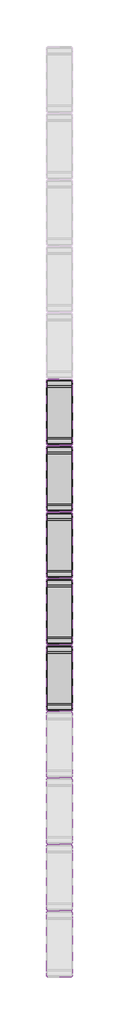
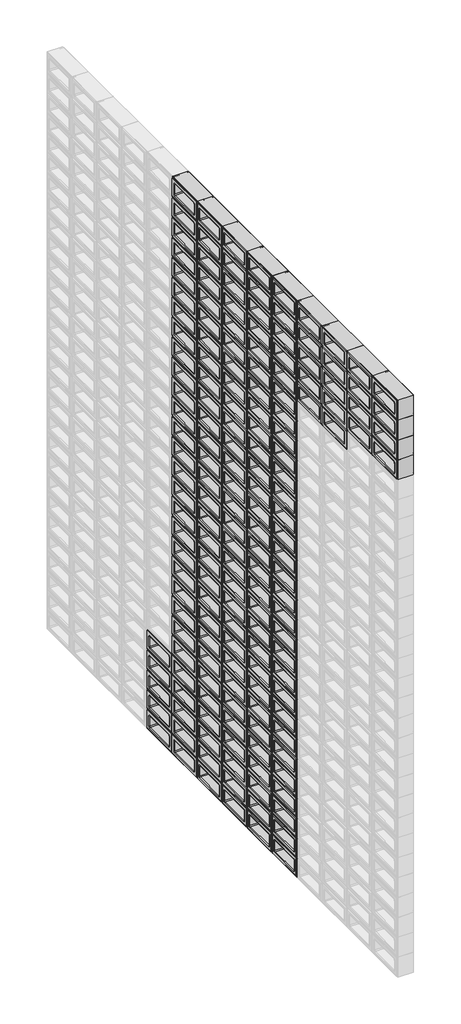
# One storey, part 4 of 59: 168 plates.
"""IFC4 building model written with IfcOpenShell, lengths in millimetres."""

from ifc_helpers import new_model, si_unit, origin, place, context, project, spatial, transform, mapped, element, save
from components import plate_12236348

model = new_model("IFC4")

# Units and contexts
model_context = context("Model", 3, world=origin())
ifc_project = project(units=[si_unit("LENGTHUNIT", "METRE", prefix="MILLI")], contexts=[model_context])

# Site, building, storey
site = spatial("IfcSite", under=ifc_project)
building = spatial("IfcBuilding", under=site)
storey = spatial("IfcBuildingStorey", under=building, Name="PORTOBELLO - SHOWROOM", Elevation=0.0)

# Plates
placement = place(None, origin())
plate_shape = plate_12236348(model_context)
element("IfcPlate", 1, ObjectType="PBSHOP - ON FIRE PEPPERMINT 9X19 (PAINEL CORTINA) : PEPPERMINT", at=placement, inside=storey, context=model_context, shape_type="MappedRepresentation", body=[
    mapped(plate_shape, transform((-33705.5633853, -1907.9877273, 0.0), x_axis=(0.0, 1.0, 0.0), y_axis=(-1.0, 0.0, 0.0), z_axis=(0.0, 0.0, 1.0))),
])
element("IfcPlate", 2, ObjectType="PBSHOP - ON FIRE PEPPERMINT 9X19 (PAINEL CORTINA) : PEPPERMINT", at=placement, inside=storey, context=model_context, shape_type="MappedRepresentation", body=[
    mapped(plate_shape, transform((-33705.5633853, -1713.9877273, 0.0), x_axis=(0.0, 1.0, 0.0), y_axis=(-1.0, 0.0, 0.0), z_axis=(0.0, 0.0, 1.0))),
])
element("IfcPlate", 3, ObjectType="PBSHOP - ON FIRE PEPPERMINT 9X19 (PAINEL CORTINA) : PEPPERMINT", at=placement, inside=storey, context=model_context, shape_type="MappedRepresentation", body=[
    mapped(plate_shape, transform((-33705.5633853, -1519.9877273, 0.0), x_axis=(0.0, 1.0, 0.0), y_axis=(-1.0, 0.0, 0.0), z_axis=(0.0, 0.0, 1.0))),
])
element("IfcPlate", 4, ObjectType="PBSHOP - ON FIRE PEPPERMINT 9X19 (PAINEL CORTINA) : PEPPERMINT", at=placement, inside=storey, context=model_context, shape_type="MappedRepresentation", body=[
    mapped(plate_shape, transform((-33705.5633853, -1325.9877273, 0.0), x_axis=(0.0, 1.0, 0.0), y_axis=(-1.0, 0.0, 0.0), z_axis=(0.0, 0.0, 1.0))),
])
element("IfcPlate", 5, ObjectType="PBSHOP - ON FIRE PEPPERMINT 9X19 (PAINEL CORTINA) : PEPPERMINT", at=placement, inside=storey, context=model_context, shape_type="MappedRepresentation", body=[
    mapped(plate_shape, transform((-33705.5633853, -1131.9877273, 0.0), x_axis=(0.0, 1.0, 0.0), y_axis=(-1.0, 0.0, 0.0), z_axis=(0.0, 0.0, 1.0))),
])
element("IfcPlate", 6, ObjectType="PBSHOP - ON FIRE PEPPERMINT 9X19 (PAINEL CORTINA) : PEPPERMINT", at=placement, inside=storey, context=model_context, shape_type="MappedRepresentation", body=[
    mapped(plate_shape, transform((-33705.5633853, -1907.9877273, 94.0), x_axis=(0.0, 1.0, 0.0), y_axis=(-1.0, 0.0, 0.0), z_axis=(0.0, 0.0, 1.0))),
])
element("IfcPlate", 7, ObjectType="PBSHOP - ON FIRE PEPPERMINT 9X19 (PAINEL CORTINA) : PEPPERMINT", at=placement, inside=storey, context=model_context, shape_type="MappedRepresentation", body=[
    mapped(plate_shape, transform((-33705.5633853, -1713.9877273, 94.0), x_axis=(0.0, 1.0, 0.0), y_axis=(-1.0, 0.0, 0.0), z_axis=(0.0, 0.0, 1.0))),
])
element("IfcPlate", 8, ObjectType="PBSHOP - ON FIRE PEPPERMINT 9X19 (PAINEL CORTINA) : PEPPERMINT", at=placement, inside=storey, context=model_context, shape_type="MappedRepresentation", body=[
    mapped(plate_shape, transform((-33705.5633853, -1519.9877273, 94.0), x_axis=(0.0, 1.0, 0.0), y_axis=(-1.0, 0.0, 0.0), z_axis=(0.0, 0.0, 1.0))),
])
element("IfcPlate", 9, ObjectType="PBSHOP - ON FIRE PEPPERMINT 9X19 (PAINEL CORTINA) : PEPPERMINT", at=placement, inside=storey, context=model_context, shape_type="MappedRepresentation", body=[
    mapped(plate_shape, transform((-33705.5633853, -1325.9877273, 94.0), x_axis=(0.0, 1.0, 0.0), y_axis=(-1.0, 0.0, 0.0), z_axis=(0.0, 0.0, 1.0))),
])
element("IfcPlate", 10, ObjectType="PBSHOP - ON FIRE PEPPERMINT 9X19 (PAINEL CORTINA) : PEPPERMINT", at=placement, inside=storey, context=model_context, shape_type="MappedRepresentation", body=[
    mapped(plate_shape, transform((-33705.5633853, -1131.9877273, 94.0), x_axis=(0.0, 1.0, 0.0), y_axis=(-1.0, 0.0, 0.0), z_axis=(0.0, 0.0, 1.0))),
])
element("IfcPlate", 11, ObjectType="PBSHOP - ON FIRE PEPPERMINT 9X19 (PAINEL CORTINA) : PEPPERMINT", at=placement, inside=storey, context=model_context, shape_type="MappedRepresentation", body=[
    mapped(plate_shape, transform((-33705.5633853, -1907.9877273, 188.0), x_axis=(0.0, 1.0, 0.0), y_axis=(-1.0, 0.0, 0.0), z_axis=(0.0, 0.0, 1.0))),
])
element("IfcPlate", 12, ObjectType="PBSHOP - ON FIRE PEPPERMINT 9X19 (PAINEL CORTINA) : PEPPERMINT", at=placement, inside=storey, context=model_context, shape_type="MappedRepresentation", body=[
    mapped(plate_shape, transform((-33705.5633853, -1713.9877273, 188.0), x_axis=(0.0, 1.0, 0.0), y_axis=(-1.0, 0.0, 0.0), z_axis=(0.0, 0.0, 1.0))),
])
element("IfcPlate", 13, ObjectType="PBSHOP - ON FIRE PEPPERMINT 9X19 (PAINEL CORTINA) : PEPPERMINT", at=placement, inside=storey, context=model_context, shape_type="MappedRepresentation", body=[
    mapped(plate_shape, transform((-33705.5633853, -1519.9877273, 188.0), x_axis=(0.0, 1.0, 0.0), y_axis=(-1.0, 0.0, 0.0), z_axis=(0.0, 0.0, 1.0))),
])
element("IfcPlate", 14, ObjectType="PBSHOP - ON FIRE PEPPERMINT 9X19 (PAINEL CORTINA) : PEPPERMINT", at=placement, inside=storey, context=model_context, shape_type="MappedRepresentation", body=[
    mapped(plate_shape, transform((-33705.5633853, -1325.9877273, 188.0), x_axis=(0.0, 1.0, 0.0), y_axis=(-1.0, 0.0, 0.0), z_axis=(0.0, 0.0, 1.0))),
])
element("IfcPlate", 15, ObjectType="PBSHOP - ON FIRE PEPPERMINT 9X19 (PAINEL CORTINA) : PEPPERMINT", at=placement, inside=storey, context=model_context, shape_type="MappedRepresentation", body=[
    mapped(plate_shape, transform((-33705.5633853, -1131.9877273, 188.0), x_axis=(0.0, 1.0, 0.0), y_axis=(-1.0, 0.0, 0.0), z_axis=(0.0, 0.0, 1.0))),
])
element("IfcPlate", 16, ObjectType="PBSHOP - ON FIRE PEPPERMINT 9X19 (PAINEL CORTINA) : PEPPERMINT", at=placement, inside=storey, context=model_context, shape_type="MappedRepresentation", body=[
    mapped(plate_shape, transform((-33705.5633853, -1907.9877273, 282.0), x_axis=(0.0, 1.0, 0.0), y_axis=(-1.0, 0.0, 0.0), z_axis=(0.0, 0.0, 1.0))),
])
element("IfcPlate", 17, ObjectType="PBSHOP - ON FIRE PEPPERMINT 9X19 (PAINEL CORTINA) : PEPPERMINT", at=placement, inside=storey, context=model_context, shape_type="MappedRepresentation", body=[
    mapped(plate_shape, transform((-33705.5633853, -1713.9877273, 282.0), x_axis=(0.0, 1.0, 0.0), y_axis=(-1.0, 0.0, 0.0), z_axis=(0.0, 0.0, 1.0))),
])
element("IfcPlate", 18, ObjectType="PBSHOP - ON FIRE PEPPERMINT 9X19 (PAINEL CORTINA) : PEPPERMINT", at=placement, inside=storey, context=model_context, shape_type="MappedRepresentation", body=[
    mapped(plate_shape, transform((-33705.5633853, -1519.9877273, 282.0), x_axis=(0.0, 1.0, 0.0), y_axis=(-1.0, 0.0, 0.0), z_axis=(0.0, 0.0, 1.0))),
])
element("IfcPlate", 19, ObjectType="PBSHOP - ON FIRE PEPPERMINT 9X19 (PAINEL CORTINA) : PEPPERMINT", at=placement, inside=storey, context=model_context, shape_type="MappedRepresentation", body=[
    mapped(plate_shape, transform((-33705.5633853, -1325.9877273, 282.0), x_axis=(0.0, 1.0, 0.0), y_axis=(-1.0, 0.0, 0.0), z_axis=(0.0, 0.0, 1.0))),
])
element("IfcPlate", 20, ObjectType="PBSHOP - ON FIRE PEPPERMINT 9X19 (PAINEL CORTINA) : PEPPERMINT", at=placement, inside=storey, context=model_context, shape_type="MappedRepresentation", body=[
    mapped(plate_shape, transform((-33705.5633853, -1131.9877273, 282.0), x_axis=(0.0, 1.0, 0.0), y_axis=(-1.0, 0.0, 0.0), z_axis=(0.0, 0.0, 1.0))),
])
element("IfcPlate", 21, ObjectType="PBSHOP - ON FIRE PEPPERMINT 9X19 (PAINEL CORTINA) : PEPPERMINT", at=placement, inside=storey, context=model_context, shape_type="MappedRepresentation", body=[
    mapped(plate_shape, transform((-33705.5633853, -1907.9877273, 376.0), x_axis=(0.0, 1.0, 0.0), y_axis=(-1.0, 0.0, 0.0), z_axis=(0.0, 0.0, 1.0))),
])
element("IfcPlate", 22, ObjectType="PBSHOP - ON FIRE PEPPERMINT 9X19 (PAINEL CORTINA) : PEPPERMINT", at=placement, inside=storey, context=model_context, shape_type="MappedRepresentation", body=[
    mapped(plate_shape, transform((-33705.5633853, -1713.9877273, 376.0), x_axis=(0.0, 1.0, 0.0), y_axis=(-1.0, 0.0, 0.0), z_axis=(0.0, 0.0, 1.0))),
])
element("IfcPlate", 23, ObjectType="PBSHOP - ON FIRE PEPPERMINT 9X19 (PAINEL CORTINA) : PEPPERMINT", at=placement, inside=storey, context=model_context, shape_type="MappedRepresentation", body=[
    mapped(plate_shape, transform((-33705.5633853, -1519.9877273, 376.0), x_axis=(0.0, 1.0, 0.0), y_axis=(-1.0, 0.0, 0.0), z_axis=(0.0, 0.0, 1.0))),
])
element("IfcPlate", 24, ObjectType="PBSHOP - ON FIRE PEPPERMINT 9X19 (PAINEL CORTINA) : PEPPERMINT", at=placement, inside=storey, context=model_context, shape_type="MappedRepresentation", body=[
    mapped(plate_shape, transform((-33705.5633853, -1325.9877273, 376.0), x_axis=(0.0, 1.0, 0.0), y_axis=(-1.0, 0.0, 0.0), z_axis=(0.0, 0.0, 1.0))),
])
element("IfcPlate", 25, ObjectType="PBSHOP - ON FIRE PEPPERMINT 9X19 (PAINEL CORTINA) : PEPPERMINT", at=placement, inside=storey, context=model_context, shape_type="MappedRepresentation", body=[
    mapped(plate_shape, transform((-33705.5633853, -1131.9877273, 376.0), x_axis=(0.0, 1.0, 0.0), y_axis=(-1.0, 0.0, 0.0), z_axis=(0.0, 0.0, 1.0))),
])
element("IfcPlate", 26, ObjectType="PBSHOP - ON FIRE PEPPERMINT 9X19 (PAINEL CORTINA) : PEPPERMINT", at=placement, inside=storey, context=model_context, shape_type="MappedRepresentation", body=[
    mapped(plate_shape, transform((-33705.5633853, -1907.9877273, 470.0), x_axis=(0.0, 1.0, 0.0), y_axis=(-1.0, 0.0, 0.0), z_axis=(0.0, 0.0, 1.0))),
])
element("IfcPlate", 27, ObjectType="PBSHOP - ON FIRE PEPPERMINT 9X19 (PAINEL CORTINA) : PEPPERMINT", at=placement, inside=storey, context=model_context, shape_type="MappedRepresentation", body=[
    mapped(plate_shape, transform((-33705.5633853, -1713.9877273, 470.0), x_axis=(0.0, 1.0, 0.0), y_axis=(-1.0, 0.0, 0.0), z_axis=(0.0, 0.0, 1.0))),
])
element("IfcPlate", 28, ObjectType="PBSHOP - ON FIRE PEPPERMINT 9X19 (PAINEL CORTINA) : PEPPERMINT", at=placement, inside=storey, context=model_context, shape_type="MappedRepresentation", body=[
    mapped(plate_shape, transform((-33705.5633853, -1519.9877273, 470.0), x_axis=(0.0, 1.0, 0.0), y_axis=(-1.0, 0.0, 0.0), z_axis=(0.0, 0.0, 1.0))),
])
element("IfcPlate", 29, ObjectType="PBSHOP - ON FIRE PEPPERMINT 9X19 (PAINEL CORTINA) : PEPPERMINT", at=placement, inside=storey, context=model_context, shape_type="MappedRepresentation", body=[
    mapped(plate_shape, transform((-33705.5633853, -1325.9877273, 470.0), x_axis=(0.0, 1.0, 0.0), y_axis=(-1.0, 0.0, 0.0), z_axis=(0.0, 0.0, 1.0))),
])
element("IfcPlate", 30, ObjectType="PBSHOP - ON FIRE PEPPERMINT 9X19 (PAINEL CORTINA) : PEPPERMINT", at=placement, inside=storey, context=model_context, shape_type="MappedRepresentation", body=[
    mapped(plate_shape, transform((-33705.5633853, -1131.9877273, 470.0), x_axis=(0.0, 1.0, 0.0), y_axis=(-1.0, 0.0, 0.0), z_axis=(0.0, 0.0, 1.0))),
])
element("IfcPlate", 31, ObjectType="PBSHOP - ON FIRE PEPPERMINT 9X19 (PAINEL CORTINA) : PEPPERMINT", at=placement, inside=storey, context=model_context, shape_type="MappedRepresentation", body=[
    mapped(plate_shape, transform((-33705.5633853, -1907.9877273, 564.0), x_axis=(0.0, 1.0, 0.0), y_axis=(-1.0, 0.0, 0.0), z_axis=(0.0, 0.0, 1.0))),
])
element("IfcPlate", 32, ObjectType="PBSHOP - ON FIRE PEPPERMINT 9X19 (PAINEL CORTINA) : PEPPERMINT", at=placement, inside=storey, context=model_context, shape_type="MappedRepresentation", body=[
    mapped(plate_shape, transform((-33705.5633853, -1713.9877273, 564.0), x_axis=(0.0, 1.0, 0.0), y_axis=(-1.0, 0.0, 0.0), z_axis=(0.0, 0.0, 1.0))),
])
element("IfcPlate", 33, ObjectType="PBSHOP - ON FIRE PEPPERMINT 9X19 (PAINEL CORTINA) : PEPPERMINT", at=placement, inside=storey, context=model_context, shape_type="MappedRepresentation", body=[
    mapped(plate_shape, transform((-33705.5633853, -1519.9877273, 564.0), x_axis=(0.0, 1.0, 0.0), y_axis=(-1.0, 0.0, 0.0), z_axis=(0.0, 0.0, 1.0))),
])
element("IfcPlate", 34, ObjectType="PBSHOP - ON FIRE PEPPERMINT 9X19 (PAINEL CORTINA) : PEPPERMINT", at=placement, inside=storey, context=model_context, shape_type="MappedRepresentation", body=[
    mapped(plate_shape, transform((-33705.5633853, -1325.9877273, 564.0), x_axis=(0.0, 1.0, 0.0), y_axis=(-1.0, 0.0, 0.0), z_axis=(0.0, 0.0, 1.0))),
])
element("IfcPlate", 35, ObjectType="PBSHOP - ON FIRE PEPPERMINT 9X19 (PAINEL CORTINA) : PEPPERMINT", at=placement, inside=storey, context=model_context, shape_type="MappedRepresentation", body=[
    mapped(plate_shape, transform((-33705.5633853, -1131.9877273, 564.0), x_axis=(0.0, 1.0, 0.0), y_axis=(-1.0, 0.0, 0.0), z_axis=(0.0, 0.0, 1.0))),
])
element("IfcPlate", 36, ObjectType="PBSHOP - ON FIRE PEPPERMINT 9X19 (PAINEL CORTINA) : PEPPERMINT", at=placement, inside=storey, context=model_context, shape_type="MappedRepresentation", body=[
    mapped(plate_shape, transform((-33705.5633853, -1907.9877273, 658.0), x_axis=(0.0, 1.0, 0.0), y_axis=(-1.0, 0.0, 0.0), z_axis=(0.0, 0.0, 1.0))),
])
element("IfcPlate", 37, ObjectType="PBSHOP - ON FIRE PEPPERMINT 9X19 (PAINEL CORTINA) : PEPPERMINT", at=placement, inside=storey, context=model_context, shape_type="MappedRepresentation", body=[
    mapped(plate_shape, transform((-33705.5633853, -1713.9877273, 658.0), x_axis=(0.0, 1.0, 0.0), y_axis=(-1.0, 0.0, 0.0), z_axis=(0.0, 0.0, 1.0))),
])
element("IfcPlate", 38, ObjectType="PBSHOP - ON FIRE PEPPERMINT 9X19 (PAINEL CORTINA) : PEPPERMINT", at=placement, inside=storey, context=model_context, shape_type="MappedRepresentation", body=[
    mapped(plate_shape, transform((-33705.5633853, -1519.9877273, 658.0), x_axis=(0.0, 1.0, 0.0), y_axis=(-1.0, 0.0, 0.0), z_axis=(0.0, 0.0, 1.0))),
])
element("IfcPlate", 39, ObjectType="PBSHOP - ON FIRE PEPPERMINT 9X19 (PAINEL CORTINA) : PEPPERMINT", at=placement, inside=storey, context=model_context, shape_type="MappedRepresentation", body=[
    mapped(plate_shape, transform((-33705.5633853, -1325.9877273, 658.0), x_axis=(0.0, 1.0, 0.0), y_axis=(-1.0, 0.0, 0.0), z_axis=(0.0, 0.0, 1.0))),
])
element("IfcPlate", 40, ObjectType="PBSHOP - ON FIRE PEPPERMINT 9X19 (PAINEL CORTINA) : PEPPERMINT", at=placement, inside=storey, context=model_context, shape_type="MappedRepresentation", body=[
    mapped(plate_shape, transform((-33705.5633853, -1131.9877273, 658.0), x_axis=(0.0, 1.0, 0.0), y_axis=(-1.0, 0.0, 0.0), z_axis=(0.0, 0.0, 1.0))),
])
element("IfcPlate", 41, ObjectType="PBSHOP - ON FIRE PEPPERMINT 9X19 (PAINEL CORTINA) : PEPPERMINT", at=placement, inside=storey, context=model_context, shape_type="MappedRepresentation", body=[
    mapped(plate_shape, transform((-33705.5633853, -1907.9877273, 752.0), x_axis=(0.0, 1.0, 0.0), y_axis=(-1.0, 0.0, 0.0), z_axis=(0.0, 0.0, 1.0))),
])
element("IfcPlate", 42, ObjectType="PBSHOP - ON FIRE PEPPERMINT 9X19 (PAINEL CORTINA) : PEPPERMINT", at=placement, inside=storey, context=model_context, shape_type="MappedRepresentation", body=[
    mapped(plate_shape, transform((-33705.5633853, -1713.9877273, 752.0), x_axis=(0.0, 1.0, 0.0), y_axis=(-1.0, 0.0, 0.0), z_axis=(0.0, 0.0, 1.0))),
])
element("IfcPlate", 43, ObjectType="PBSHOP - ON FIRE PEPPERMINT 9X19 (PAINEL CORTINA) : PEPPERMINT", at=placement, inside=storey, context=model_context, shape_type="MappedRepresentation", body=[
    mapped(plate_shape, transform((-33705.5633853, -1519.9877273, 752.0), x_axis=(0.0, 1.0, 0.0), y_axis=(-1.0, 0.0, 0.0), z_axis=(0.0, 0.0, 1.0))),
])
element("IfcPlate", 44, ObjectType="PBSHOP - ON FIRE PEPPERMINT 9X19 (PAINEL CORTINA) : PEPPERMINT", at=placement, inside=storey, context=model_context, shape_type="MappedRepresentation", body=[
    mapped(plate_shape, transform((-33705.5633853, -1325.9877273, 752.0), x_axis=(0.0, 1.0, 0.0), y_axis=(-1.0, 0.0, 0.0), z_axis=(0.0, 0.0, 1.0))),
])
element("IfcPlate", 45, ObjectType="PBSHOP - ON FIRE PEPPERMINT 9X19 (PAINEL CORTINA) : PEPPERMINT", at=placement, inside=storey, context=model_context, shape_type="MappedRepresentation", body=[
    mapped(plate_shape, transform((-33705.5633853, -1131.9877273, 752.0), x_axis=(0.0, 1.0, 0.0), y_axis=(-1.0, 0.0, 0.0), z_axis=(0.0, 0.0, 1.0))),
])
element("IfcPlate", 46, ObjectType="PBSHOP - ON FIRE PEPPERMINT 9X19 (PAINEL CORTINA) : PEPPERMINT", at=placement, inside=storey, context=model_context, shape_type="MappedRepresentation", body=[
    mapped(plate_shape, transform((-33705.5633853, -937.9877273, 0.0), x_axis=(0.0, 1.0, 0.0), y_axis=(-1.0, 0.0, 0.0), z_axis=(0.0, 0.0, 1.0))),
])
element("IfcPlate", 47, ObjectType="PBSHOP - ON FIRE PEPPERMINT 9X19 (PAINEL CORTINA) : PEPPERMINT", at=placement, inside=storey, context=model_context, shape_type="MappedRepresentation", body=[
    mapped(plate_shape, transform((-33705.5633853, -937.9877273, 94.0), x_axis=(0.0, 1.0, 0.0), y_axis=(-1.0, 0.0, 0.0), z_axis=(0.0, 0.0, 1.0))),
])
element("IfcPlate", 48, ObjectType="PBSHOP - ON FIRE PEPPERMINT 9X19 (PAINEL CORTINA) : PEPPERMINT", at=placement, inside=storey, context=model_context, shape_type="MappedRepresentation", body=[
    mapped(plate_shape, transform((-33705.5633853, -937.9877273, 188.0), x_axis=(0.0, 1.0, 0.0), y_axis=(-1.0, 0.0, 0.0), z_axis=(0.0, 0.0, 1.0))),
])
element("IfcPlate", 49, ObjectType="PBSHOP - ON FIRE PEPPERMINT 9X19 (PAINEL CORTINA) : PEPPERMINT", at=placement, inside=storey, context=model_context, shape_type="MappedRepresentation", body=[
    mapped(plate_shape, transform((-33705.5633853, -937.9877273, 282.0), x_axis=(0.0, 1.0, 0.0), y_axis=(-1.0, 0.0, 0.0), z_axis=(0.0, 0.0, 1.0))),
])
element("IfcPlate", 50, ObjectType="PBSHOP - ON FIRE PEPPERMINT 9X19 (PAINEL CORTINA) : PEPPERMINT", at=placement, inside=storey, context=model_context, shape_type="MappedRepresentation", body=[
    mapped(plate_shape, transform((-33705.5633853, -937.9877273, 376.0), x_axis=(0.0, 1.0, 0.0), y_axis=(-1.0, 0.0, 0.0), z_axis=(0.0, 0.0, 1.0))),
])
element("IfcPlate", 51, ObjectType="PBSHOP - ON FIRE PEPPERMINT 9X19 (PAINEL CORTINA) : PEPPERMINT", at=placement, inside=storey, context=model_context, shape_type="MappedRepresentation", body=[
    mapped(plate_shape, transform((-33705.5633853, -1907.9877273, 846.0), x_axis=(0.0, 1.0, 0.0), y_axis=(-1.0, 0.0, 0.0), z_axis=(0.0, 0.0, 1.0))),
])
element("IfcPlate", 52, ObjectType="PBSHOP - ON FIRE PEPPERMINT 9X19 (PAINEL CORTINA) : PEPPERMINT", at=placement, inside=storey, context=model_context, shape_type="MappedRepresentation", body=[
    mapped(plate_shape, transform((-33705.5633853, -1713.9877273, 846.0), x_axis=(0.0, 1.0, 0.0), y_axis=(-1.0, 0.0, 0.0), z_axis=(0.0, 0.0, 1.0))),
])
element("IfcPlate", 53, ObjectType="PBSHOP - ON FIRE PEPPERMINT 9X19 (PAINEL CORTINA) : PEPPERMINT", at=placement, inside=storey, context=model_context, shape_type="MappedRepresentation", body=[
    mapped(plate_shape, transform((-33705.5633853, -1519.9877273, 846.0), x_axis=(0.0, 1.0, 0.0), y_axis=(-1.0, 0.0, 0.0), z_axis=(0.0, 0.0, 1.0))),
])
element("IfcPlate", 54, ObjectType="PBSHOP - ON FIRE PEPPERMINT 9X19 (PAINEL CORTINA) : PEPPERMINT", at=placement, inside=storey, context=model_context, shape_type="MappedRepresentation", body=[
    mapped(plate_shape, transform((-33705.5633853, -1325.9877273, 846.0), x_axis=(0.0, 1.0, 0.0), y_axis=(-1.0, 0.0, 0.0), z_axis=(0.0, 0.0, 1.0))),
])
element("IfcPlate", 55, ObjectType="PBSHOP - ON FIRE PEPPERMINT 9X19 (PAINEL CORTINA) : PEPPERMINT", at=placement, inside=storey, context=model_context, shape_type="MappedRepresentation", body=[
    mapped(plate_shape, transform((-33705.5633853, -1131.9877273, 846.0), x_axis=(0.0, 1.0, 0.0), y_axis=(-1.0, 0.0, 0.0), z_axis=(0.0, 0.0, 1.0))),
])
element("IfcPlate", 56, ObjectType="PBSHOP - ON FIRE PEPPERMINT 9X19 (PAINEL CORTINA) : PEPPERMINT", at=placement, inside=storey, context=model_context, shape_type="MappedRepresentation", body=[
    mapped(plate_shape, transform((-33705.5633853, -1907.9877273, 940.0), x_axis=(0.0, 1.0, 0.0), y_axis=(-1.0, 0.0, 0.0), z_axis=(0.0, 0.0, 1.0))),
])
element("IfcPlate", 57, ObjectType="PBSHOP - ON FIRE PEPPERMINT 9X19 (PAINEL CORTINA) : PEPPERMINT", at=placement, inside=storey, context=model_context, shape_type="MappedRepresentation", body=[
    mapped(plate_shape, transform((-33705.5633853, -1713.9877273, 940.0), x_axis=(0.0, 1.0, 0.0), y_axis=(-1.0, 0.0, 0.0), z_axis=(0.0, 0.0, 1.0))),
])
element("IfcPlate", 58, ObjectType="PBSHOP - ON FIRE PEPPERMINT 9X19 (PAINEL CORTINA) : PEPPERMINT", at=placement, inside=storey, context=model_context, shape_type="MappedRepresentation", body=[
    mapped(plate_shape, transform((-33705.5633853, -1519.9877273, 940.0), x_axis=(0.0, 1.0, 0.0), y_axis=(-1.0, 0.0, 0.0), z_axis=(0.0, 0.0, 1.0))),
])
element("IfcPlate", 59, ObjectType="PBSHOP - ON FIRE PEPPERMINT 9X19 (PAINEL CORTINA) : PEPPERMINT", at=placement, inside=storey, context=model_context, shape_type="MappedRepresentation", body=[
    mapped(plate_shape, transform((-33705.5633853, -1325.9877273, 940.0), x_axis=(0.0, 1.0, 0.0), y_axis=(-1.0, 0.0, 0.0), z_axis=(0.0, 0.0, 1.0))),
])
element("IfcPlate", 60, ObjectType="PBSHOP - ON FIRE PEPPERMINT 9X19 (PAINEL CORTINA) : PEPPERMINT", at=placement, inside=storey, context=model_context, shape_type="MappedRepresentation", body=[
    mapped(plate_shape, transform((-33705.5633853, -1131.9877273, 940.0), x_axis=(0.0, 1.0, 0.0), y_axis=(-1.0, 0.0, 0.0), z_axis=(0.0, 0.0, 1.0))),
])
element("IfcPlate", 61, ObjectType="PBSHOP - ON FIRE PEPPERMINT 9X19 (PAINEL CORTINA) : PEPPERMINT", at=placement, inside=storey, context=model_context, shape_type="MappedRepresentation", body=[
    mapped(plate_shape, transform((-33705.5633853, -1907.9877273, 1034.0), x_axis=(0.0, 1.0, 0.0), y_axis=(-1.0, 0.0, 0.0), z_axis=(0.0, 0.0, 1.0))),
])
element("IfcPlate", 62, ObjectType="PBSHOP - ON FIRE PEPPERMINT 9X19 (PAINEL CORTINA) : PEPPERMINT", at=placement, inside=storey, context=model_context, shape_type="MappedRepresentation", body=[
    mapped(plate_shape, transform((-33705.5633853, -1713.9877273, 1034.0), x_axis=(0.0, 1.0, 0.0), y_axis=(-1.0, 0.0, 0.0), z_axis=(0.0, 0.0, 1.0))),
])
element("IfcPlate", 63, ObjectType="PBSHOP - ON FIRE PEPPERMINT 9X19 (PAINEL CORTINA) : PEPPERMINT", at=placement, inside=storey, context=model_context, shape_type="MappedRepresentation", body=[
    mapped(plate_shape, transform((-33705.5633853, -1519.9877273, 1034.0), x_axis=(0.0, 1.0, 0.0), y_axis=(-1.0, 0.0, 0.0), z_axis=(0.0, 0.0, 1.0))),
])
element("IfcPlate", 64, ObjectType="PBSHOP - ON FIRE PEPPERMINT 9X19 (PAINEL CORTINA) : PEPPERMINT", at=placement, inside=storey, context=model_context, shape_type="MappedRepresentation", body=[
    mapped(plate_shape, transform((-33705.5633853, -1325.9877273, 1034.0), x_axis=(0.0, 1.0, 0.0), y_axis=(-1.0, 0.0, 0.0), z_axis=(0.0, 0.0, 1.0))),
])
element("IfcPlate", 65, ObjectType="PBSHOP - ON FIRE PEPPERMINT 9X19 (PAINEL CORTINA) : PEPPERMINT", at=placement, inside=storey, context=model_context, shape_type="MappedRepresentation", body=[
    mapped(plate_shape, transform((-33705.5633853, -1131.9877273, 1034.0), x_axis=(0.0, 1.0, 0.0), y_axis=(-1.0, 0.0, 0.0), z_axis=(0.0, 0.0, 1.0))),
])
element("IfcPlate", 66, ObjectType="PBSHOP - ON FIRE PEPPERMINT 9X19 (PAINEL CORTINA) : PEPPERMINT", at=placement, inside=storey, context=model_context, shape_type="MappedRepresentation", body=[
    mapped(plate_shape, transform((-33705.5633853, -1907.9877273, 1128.0), x_axis=(0.0, 1.0, 0.0), y_axis=(-1.0, 0.0, 0.0), z_axis=(0.0, 0.0, 1.0))),
])
element("IfcPlate", 67, ObjectType="PBSHOP - ON FIRE PEPPERMINT 9X19 (PAINEL CORTINA) : PEPPERMINT", at=placement, inside=storey, context=model_context, shape_type="MappedRepresentation", body=[
    mapped(plate_shape, transform((-33705.5633853, -1713.9877273, 1128.0), x_axis=(0.0, 1.0, 0.0), y_axis=(-1.0, 0.0, 0.0), z_axis=(0.0, 0.0, 1.0))),
])
element("IfcPlate", 68, ObjectType="PBSHOP - ON FIRE PEPPERMINT 9X19 (PAINEL CORTINA) : PEPPERMINT", at=placement, inside=storey, context=model_context, shape_type="MappedRepresentation", body=[
    mapped(plate_shape, transform((-33705.5633853, -1519.9877273, 1128.0), x_axis=(0.0, 1.0, 0.0), y_axis=(-1.0, 0.0, 0.0), z_axis=(0.0, 0.0, 1.0))),
])
element("IfcPlate", 69, ObjectType="PBSHOP - ON FIRE PEPPERMINT 9X19 (PAINEL CORTINA) : PEPPERMINT", at=placement, inside=storey, context=model_context, shape_type="MappedRepresentation", body=[
    mapped(plate_shape, transform((-33705.5633853, -1325.9877273, 1128.0), x_axis=(0.0, 1.0, 0.0), y_axis=(-1.0, 0.0, 0.0), z_axis=(0.0, 0.0, 1.0))),
])
element("IfcPlate", 70, ObjectType="PBSHOP - ON FIRE PEPPERMINT 9X19 (PAINEL CORTINA) : PEPPERMINT", at=placement, inside=storey, context=model_context, shape_type="MappedRepresentation", body=[
    mapped(plate_shape, transform((-33705.5633853, -1131.9877273, 1128.0), x_axis=(0.0, 1.0, 0.0), y_axis=(-1.0, 0.0, 0.0), z_axis=(0.0, 0.0, 1.0))),
])
element("IfcPlate", 71, ObjectType="PBSHOP - ON FIRE PEPPERMINT 9X19 (PAINEL CORTINA) : PEPPERMINT", at=placement, inside=storey, context=model_context, shape_type="MappedRepresentation", body=[
    mapped(plate_shape, transform((-33705.5633853, -1907.9877273, 1222.0), x_axis=(0.0, 1.0, 0.0), y_axis=(-1.0, 0.0, 0.0), z_axis=(0.0, 0.0, 1.0))),
])
element("IfcPlate", 72, ObjectType="PBSHOP - ON FIRE PEPPERMINT 9X19 (PAINEL CORTINA) : PEPPERMINT", at=placement, inside=storey, context=model_context, shape_type="MappedRepresentation", body=[
    mapped(plate_shape, transform((-33705.5633853, -1713.9877273, 1222.0), x_axis=(0.0, 1.0, 0.0), y_axis=(-1.0, 0.0, 0.0), z_axis=(0.0, 0.0, 1.0))),
])
element("IfcPlate", 73, ObjectType="PBSHOP - ON FIRE PEPPERMINT 9X19 (PAINEL CORTINA) : PEPPERMINT", at=placement, inside=storey, context=model_context, shape_type="MappedRepresentation", body=[
    mapped(plate_shape, transform((-33705.5633853, -1519.9877273, 1222.0), x_axis=(0.0, 1.0, 0.0), y_axis=(-1.0, 0.0, 0.0), z_axis=(0.0, 0.0, 1.0))),
])
element("IfcPlate", 74, ObjectType="PBSHOP - ON FIRE PEPPERMINT 9X19 (PAINEL CORTINA) : PEPPERMINT", at=placement, inside=storey, context=model_context, shape_type="MappedRepresentation", body=[
    mapped(plate_shape, transform((-33705.5633853, -1325.9877273, 1222.0), x_axis=(0.0, 1.0, 0.0), y_axis=(-1.0, 0.0, 0.0), z_axis=(0.0, 0.0, 1.0))),
])
element("IfcPlate", 75, ObjectType="PBSHOP - ON FIRE PEPPERMINT 9X19 (PAINEL CORTINA) : PEPPERMINT", at=placement, inside=storey, context=model_context, shape_type="MappedRepresentation", body=[
    mapped(plate_shape, transform((-33705.5633853, -1131.9877273, 1222.0), x_axis=(0.0, 1.0, 0.0), y_axis=(-1.0, 0.0, 0.0), z_axis=(0.0, 0.0, 1.0))),
])
element("IfcPlate", 76, ObjectType="PBSHOP - ON FIRE PEPPERMINT 9X19 (PAINEL CORTINA) : PEPPERMINT", at=placement, inside=storey, context=model_context, shape_type="MappedRepresentation", body=[
    mapped(plate_shape, transform((-33705.5633853, -1907.9877273, 1316.0), x_axis=(0.0, 1.0, 0.0), y_axis=(-1.0, 0.0, 0.0), z_axis=(0.0, 0.0, 1.0))),
])
element("IfcPlate", 77, ObjectType="PBSHOP - ON FIRE PEPPERMINT 9X19 (PAINEL CORTINA) : PEPPERMINT", at=placement, inside=storey, context=model_context, shape_type="MappedRepresentation", body=[
    mapped(plate_shape, transform((-33705.5633853, -1713.9877273, 1316.0), x_axis=(0.0, 1.0, 0.0), y_axis=(-1.0, 0.0, 0.0), z_axis=(0.0, 0.0, 1.0))),
])
element("IfcPlate", 78, ObjectType="PBSHOP - ON FIRE PEPPERMINT 9X19 (PAINEL CORTINA) : PEPPERMINT", at=placement, inside=storey, context=model_context, shape_type="MappedRepresentation", body=[
    mapped(plate_shape, transform((-33705.5633853, -1519.9877273, 1316.0), x_axis=(0.0, 1.0, 0.0), y_axis=(-1.0, 0.0, 0.0), z_axis=(0.0, 0.0, 1.0))),
])
element("IfcPlate", 79, ObjectType="PBSHOP - ON FIRE PEPPERMINT 9X19 (PAINEL CORTINA) : PEPPERMINT", at=placement, inside=storey, context=model_context, shape_type="MappedRepresentation", body=[
    mapped(plate_shape, transform((-33705.5633853, -1325.9877273, 1316.0), x_axis=(0.0, 1.0, 0.0), y_axis=(-1.0, 0.0, 0.0), z_axis=(0.0, 0.0, 1.0))),
])
element("IfcPlate", 80, ObjectType="PBSHOP - ON FIRE PEPPERMINT 9X19 (PAINEL CORTINA) : PEPPERMINT", at=placement, inside=storey, context=model_context, shape_type="MappedRepresentation", body=[
    mapped(plate_shape, transform((-33705.5633853, -1131.9877273, 1316.0), x_axis=(0.0, 1.0, 0.0), y_axis=(-1.0, 0.0, 0.0), z_axis=(0.0, 0.0, 1.0))),
])
element("IfcPlate", 81, ObjectType="PBSHOP - ON FIRE PEPPERMINT 9X19 (PAINEL CORTINA) : PEPPERMINT", at=placement, inside=storey, context=model_context, shape_type="MappedRepresentation", body=[
    mapped(plate_shape, transform((-33705.5633853, -1907.9877273, 1410.0), x_axis=(0.0, 1.0, 0.0), y_axis=(-1.0, 0.0, 0.0), z_axis=(0.0, 0.0, 1.0))),
])
element("IfcPlate", 82, ObjectType="PBSHOP - ON FIRE PEPPERMINT 9X19 (PAINEL CORTINA) : PEPPERMINT", at=placement, inside=storey, context=model_context, shape_type="MappedRepresentation", body=[
    mapped(plate_shape, transform((-33705.5633853, -1713.9877273, 1410.0), x_axis=(0.0, 1.0, 0.0), y_axis=(-1.0, 0.0, 0.0), z_axis=(0.0, 0.0, 1.0))),
])
element("IfcPlate", 83, ObjectType="PBSHOP - ON FIRE PEPPERMINT 9X19 (PAINEL CORTINA) : PEPPERMINT", at=placement, inside=storey, context=model_context, shape_type="MappedRepresentation", body=[
    mapped(plate_shape, transform((-33705.5633853, -1519.9877273, 1410.0), x_axis=(0.0, 1.0, 0.0), y_axis=(-1.0, 0.0, 0.0), z_axis=(0.0, 0.0, 1.0))),
])
element("IfcPlate", 84, ObjectType="PBSHOP - ON FIRE PEPPERMINT 9X19 (PAINEL CORTINA) : PEPPERMINT", at=placement, inside=storey, context=model_context, shape_type="MappedRepresentation", body=[
    mapped(plate_shape, transform((-33705.5633853, -1325.9877273, 1410.0), x_axis=(0.0, 1.0, 0.0), y_axis=(-1.0, 0.0, 0.0), z_axis=(0.0, 0.0, 1.0))),
])
element("IfcPlate", 85, ObjectType="PBSHOP - ON FIRE PEPPERMINT 9X19 (PAINEL CORTINA) : PEPPERMINT", at=placement, inside=storey, context=model_context, shape_type="MappedRepresentation", body=[
    mapped(plate_shape, transform((-33705.5633853, -1131.9877273, 1410.0), x_axis=(0.0, 1.0, 0.0), y_axis=(-1.0, 0.0, 0.0), z_axis=(0.0, 0.0, 1.0))),
])
element("IfcPlate", 86, ObjectType="PBSHOP - ON FIRE PEPPERMINT 9X19 (PAINEL CORTINA) : PEPPERMINT", at=placement, inside=storey, context=model_context, shape_type="MappedRepresentation", body=[
    mapped(plate_shape, transform((-33705.5633853, -1907.9877273, 1504.0), x_axis=(0.0, 1.0, 0.0), y_axis=(-1.0, 0.0, 0.0), z_axis=(0.0, 0.0, 1.0))),
])
element("IfcPlate", 87, ObjectType="PBSHOP - ON FIRE PEPPERMINT 9X19 (PAINEL CORTINA) : PEPPERMINT", at=placement, inside=storey, context=model_context, shape_type="MappedRepresentation", body=[
    mapped(plate_shape, transform((-33705.5633853, -1713.9877273, 1504.0), x_axis=(0.0, 1.0, 0.0), y_axis=(-1.0, 0.0, 0.0), z_axis=(0.0, 0.0, 1.0))),
])
element("IfcPlate", 88, ObjectType="PBSHOP - ON FIRE PEPPERMINT 9X19 (PAINEL CORTINA) : PEPPERMINT", at=placement, inside=storey, context=model_context, shape_type="MappedRepresentation", body=[
    mapped(plate_shape, transform((-33705.5633853, -1519.9877273, 1504.0), x_axis=(0.0, 1.0, 0.0), y_axis=(-1.0, 0.0, 0.0), z_axis=(0.0, 0.0, 1.0))),
])
element("IfcPlate", 89, ObjectType="PBSHOP - ON FIRE PEPPERMINT 9X19 (PAINEL CORTINA) : PEPPERMINT", at=placement, inside=storey, context=model_context, shape_type="MappedRepresentation", body=[
    mapped(plate_shape, transform((-33705.5633853, -1325.9877273, 1504.0), x_axis=(0.0, 1.0, 0.0), y_axis=(-1.0, 0.0, 0.0), z_axis=(0.0, 0.0, 1.0))),
])
element("IfcPlate", 90, ObjectType="PBSHOP - ON FIRE PEPPERMINT 9X19 (PAINEL CORTINA) : PEPPERMINT", at=placement, inside=storey, context=model_context, shape_type="MappedRepresentation", body=[
    mapped(plate_shape, transform((-33705.5633853, -1131.9877273, 1504.0), x_axis=(0.0, 1.0, 0.0), y_axis=(-1.0, 0.0, 0.0), z_axis=(0.0, 0.0, 1.0))),
])
element("IfcPlate", 91, ObjectType="PBSHOP - ON FIRE PEPPERMINT 9X19 (PAINEL CORTINA) : PEPPERMINT", at=placement, inside=storey, context=model_context, shape_type="MappedRepresentation", body=[
    mapped(plate_shape, transform((-33705.5633853, -1907.9877273, 1598.0), x_axis=(0.0, 1.0, 0.0), y_axis=(-1.0, 0.0, 0.0), z_axis=(0.0, 0.0, 1.0))),
])
element("IfcPlate", 92, ObjectType="PBSHOP - ON FIRE PEPPERMINT 9X19 (PAINEL CORTINA) : PEPPERMINT", at=placement, inside=storey, context=model_context, shape_type="MappedRepresentation", body=[
    mapped(plate_shape, transform((-33705.5633853, -1713.9877273, 1598.0), x_axis=(0.0, 1.0, 0.0), y_axis=(-1.0, 0.0, 0.0), z_axis=(0.0, 0.0, 1.0))),
])
element("IfcPlate", 93, ObjectType="PBSHOP - ON FIRE PEPPERMINT 9X19 (PAINEL CORTINA) : PEPPERMINT", at=placement, inside=storey, context=model_context, shape_type="MappedRepresentation", body=[
    mapped(plate_shape, transform((-33705.5633853, -1519.9877273, 1598.0), x_axis=(0.0, 1.0, 0.0), y_axis=(-1.0, 0.0, 0.0), z_axis=(0.0, 0.0, 1.0))),
])
element("IfcPlate", 94, ObjectType="PBSHOP - ON FIRE PEPPERMINT 9X19 (PAINEL CORTINA) : PEPPERMINT", at=placement, inside=storey, context=model_context, shape_type="MappedRepresentation", body=[
    mapped(plate_shape, transform((-33705.5633853, -1325.9877273, 1598.0), x_axis=(0.0, 1.0, 0.0), y_axis=(-1.0, 0.0, 0.0), z_axis=(0.0, 0.0, 1.0))),
])
element("IfcPlate", 95, ObjectType="PBSHOP - ON FIRE PEPPERMINT 9X19 (PAINEL CORTINA) : PEPPERMINT", at=placement, inside=storey, context=model_context, shape_type="MappedRepresentation", body=[
    mapped(plate_shape, transform((-33705.5633853, -1131.9877273, 1598.0), x_axis=(0.0, 1.0, 0.0), y_axis=(-1.0, 0.0, 0.0), z_axis=(0.0, 0.0, 1.0))),
])
element("IfcPlate", 96, ObjectType="PBSHOP - ON FIRE PEPPERMINT 9X19 (PAINEL CORTINA) : PEPPERMINT", at=placement, inside=storey, context=model_context, shape_type="MappedRepresentation", body=[
    mapped(plate_shape, transform((-33705.5633853, -1907.9877273, 1692.0), x_axis=(0.0, 1.0, 0.0), y_axis=(-1.0, 0.0, 0.0), z_axis=(0.0, 0.0, 1.0))),
])
element("IfcPlate", 97, ObjectType="PBSHOP - ON FIRE PEPPERMINT 9X19 (PAINEL CORTINA) : PEPPERMINT", at=placement, inside=storey, context=model_context, shape_type="MappedRepresentation", body=[
    mapped(plate_shape, transform((-33705.5633853, -1713.9877273, 1692.0), x_axis=(0.0, 1.0, 0.0), y_axis=(-1.0, 0.0, 0.0), z_axis=(0.0, 0.0, 1.0))),
])
element("IfcPlate", 98, ObjectType="PBSHOP - ON FIRE PEPPERMINT 9X19 (PAINEL CORTINA) : PEPPERMINT", at=placement, inside=storey, context=model_context, shape_type="MappedRepresentation", body=[
    mapped(plate_shape, transform((-33705.5633853, -1519.9877273, 1692.0), x_axis=(0.0, 1.0, 0.0), y_axis=(-1.0, 0.0, 0.0), z_axis=(0.0, 0.0, 1.0))),
])
element("IfcPlate", 99, ObjectType="PBSHOP - ON FIRE PEPPERMINT 9X19 (PAINEL CORTINA) : PEPPERMINT", at=placement, inside=storey, context=model_context, shape_type="MappedRepresentation", body=[
    mapped(plate_shape, transform((-33705.5633853, -1325.9877273, 1692.0), x_axis=(0.0, 1.0, 0.0), y_axis=(-1.0, 0.0, 0.0), z_axis=(0.0, 0.0, 1.0))),
])
element("IfcPlate", 100, ObjectType="PBSHOP - ON FIRE PEPPERMINT 9X19 (PAINEL CORTINA) : PEPPERMINT", at=placement, inside=storey, context=model_context, shape_type="MappedRepresentation", body=[
    mapped(plate_shape, transform((-33705.5633853, -1131.9877273, 1692.0), x_axis=(0.0, 1.0, 0.0), y_axis=(-1.0, 0.0, 0.0), z_axis=(0.0, 0.0, 1.0))),
])
element("IfcPlate", 101, ObjectType="PBSHOP - ON FIRE PEPPERMINT 9X19 (PAINEL CORTINA) : PEPPERMINT", at=placement, inside=storey, context=model_context, shape_type="MappedRepresentation", body=[
    mapped(plate_shape, transform((-33705.5633853, -1907.9877273, 1786.0), x_axis=(0.0, 1.0, 0.0), y_axis=(-1.0, 0.0, 0.0), z_axis=(0.0, 0.0, 1.0))),
])
element("IfcPlate", 102, ObjectType="PBSHOP - ON FIRE PEPPERMINT 9X19 (PAINEL CORTINA) : PEPPERMINT", at=placement, inside=storey, context=model_context, shape_type="MappedRepresentation", body=[
    mapped(plate_shape, transform((-33705.5633853, -1713.9877273, 1786.0), x_axis=(0.0, 1.0, 0.0), y_axis=(-1.0, 0.0, 0.0), z_axis=(0.0, 0.0, 1.0))),
])
element("IfcPlate", 103, ObjectType="PBSHOP - ON FIRE PEPPERMINT 9X19 (PAINEL CORTINA) : PEPPERMINT", at=placement, inside=storey, context=model_context, shape_type="MappedRepresentation", body=[
    mapped(plate_shape, transform((-33705.5633853, -1519.9877273, 1786.0), x_axis=(0.0, 1.0, 0.0), y_axis=(-1.0, 0.0, 0.0), z_axis=(0.0, 0.0, 1.0))),
])
element("IfcPlate", 104, ObjectType="PBSHOP - ON FIRE PEPPERMINT 9X19 (PAINEL CORTINA) : PEPPERMINT", at=placement, inside=storey, context=model_context, shape_type="MappedRepresentation", body=[
    mapped(plate_shape, transform((-33705.5633853, -1325.9877273, 1786.0), x_axis=(0.0, 1.0, 0.0), y_axis=(-1.0, 0.0, 0.0), z_axis=(0.0, 0.0, 1.0))),
])
element("IfcPlate", 105, ObjectType="PBSHOP - ON FIRE PEPPERMINT 9X19 (PAINEL CORTINA) : PEPPERMINT", at=placement, inside=storey, context=model_context, shape_type="MappedRepresentation", body=[
    mapped(plate_shape, transform((-33705.5633853, -1131.9877273, 1786.0), x_axis=(0.0, 1.0, 0.0), y_axis=(-1.0, 0.0, 0.0), z_axis=(0.0, 0.0, 1.0))),
])
element("IfcPlate", 106, ObjectType="PBSHOP - ON FIRE PEPPERMINT 9X19 (PAINEL CORTINA) : PEPPERMINT", at=placement, inside=storey, context=model_context, shape_type="MappedRepresentation", body=[
    mapped(plate_shape, transform((-33705.5633853, -1907.9877273, 1880.0), x_axis=(0.0, 1.0, 0.0), y_axis=(-1.0, 0.0, 0.0), z_axis=(0.0, 0.0, 1.0))),
])
element("IfcPlate", 107, ObjectType="PBSHOP - ON FIRE PEPPERMINT 9X19 (PAINEL CORTINA) : PEPPERMINT", at=placement, inside=storey, context=model_context, shape_type="MappedRepresentation", body=[
    mapped(plate_shape, transform((-33705.5633853, -1713.9877273, 1880.0), x_axis=(0.0, 1.0, 0.0), y_axis=(-1.0, 0.0, 0.0), z_axis=(0.0, 0.0, 1.0))),
])
element("IfcPlate", 108, ObjectType="PBSHOP - ON FIRE PEPPERMINT 9X19 (PAINEL CORTINA) : PEPPERMINT", at=placement, inside=storey, context=model_context, shape_type="MappedRepresentation", body=[
    mapped(plate_shape, transform((-33705.5633853, -1519.9877273, 1880.0), x_axis=(0.0, 1.0, 0.0), y_axis=(-1.0, 0.0, 0.0), z_axis=(0.0, 0.0, 1.0))),
])
element("IfcPlate", 109, ObjectType="PBSHOP - ON FIRE PEPPERMINT 9X19 (PAINEL CORTINA) : PEPPERMINT", at=placement, inside=storey, context=model_context, shape_type="MappedRepresentation", body=[
    mapped(plate_shape, transform((-33705.5633853, -1325.9877273, 1880.0), x_axis=(0.0, 1.0, 0.0), y_axis=(-1.0, 0.0, 0.0), z_axis=(0.0, 0.0, 1.0))),
])
element("IfcPlate", 110, ObjectType="PBSHOP - ON FIRE PEPPERMINT 9X19 (PAINEL CORTINA) : PEPPERMINT", at=placement, inside=storey, context=model_context, shape_type="MappedRepresentation", body=[
    mapped(plate_shape, transform((-33705.5633853, -1131.9877273, 1880.0), x_axis=(0.0, 1.0, 0.0), y_axis=(-1.0, 0.0, 0.0), z_axis=(0.0, 0.0, 1.0))),
])
element("IfcPlate", 111, ObjectType="PBSHOP - ON FIRE PEPPERMINT 9X19 (PAINEL CORTINA) : PEPPERMINT", at=placement, inside=storey, context=model_context, shape_type="MappedRepresentation", body=[
    mapped(plate_shape, transform((-33705.5633853, -1907.9877273, 1974.0), x_axis=(0.0, 1.0, 0.0), y_axis=(-1.0, 0.0, 0.0), z_axis=(0.0, 0.0, 1.0))),
])
element("IfcPlate", 112, ObjectType="PBSHOP - ON FIRE PEPPERMINT 9X19 (PAINEL CORTINA) : PEPPERMINT", at=placement, inside=storey, context=model_context, shape_type="MappedRepresentation", body=[
    mapped(plate_shape, transform((-33705.5633853, -1713.9877273, 1974.0), x_axis=(0.0, 1.0, 0.0), y_axis=(-1.0, 0.0, 0.0), z_axis=(0.0, 0.0, 1.0))),
])
element("IfcPlate", 113, ObjectType="PBSHOP - ON FIRE PEPPERMINT 9X19 (PAINEL CORTINA) : PEPPERMINT", at=placement, inside=storey, context=model_context, shape_type="MappedRepresentation", body=[
    mapped(plate_shape, transform((-33705.5633853, -1519.9877273, 1974.0), x_axis=(0.0, 1.0, 0.0), y_axis=(-1.0, 0.0, 0.0), z_axis=(0.0, 0.0, 1.0))),
])
element("IfcPlate", 114, ObjectType="PBSHOP - ON FIRE PEPPERMINT 9X19 (PAINEL CORTINA) : PEPPERMINT", at=placement, inside=storey, context=model_context, shape_type="MappedRepresentation", body=[
    mapped(plate_shape, transform((-33705.5633853, -1325.9877273, 1974.0), x_axis=(0.0, 1.0, 0.0), y_axis=(-1.0, 0.0, 0.0), z_axis=(0.0, 0.0, 1.0))),
])
element("IfcPlate", 115, ObjectType="PBSHOP - ON FIRE PEPPERMINT 9X19 (PAINEL CORTINA) : PEPPERMINT", at=placement, inside=storey, context=model_context, shape_type="MappedRepresentation", body=[
    mapped(plate_shape, transform((-33705.5633853, -1131.9877273, 1974.0), x_axis=(0.0, 1.0, 0.0), y_axis=(-1.0, 0.0, 0.0), z_axis=(0.0, 0.0, 1.0))),
])
element("IfcPlate", 116, ObjectType="PBSHOP - ON FIRE PEPPERMINT 9X19 (PAINEL CORTINA) : PEPPERMINT", at=placement, inside=storey, context=model_context, shape_type="MappedRepresentation", body=[
    mapped(plate_shape, transform((-33705.5633853, -1907.9877273, 2068.0), x_axis=(0.0, 1.0, 0.0), y_axis=(-1.0, 0.0, 0.0), z_axis=(0.0, 0.0, 1.0))),
])
element("IfcPlate", 117, ObjectType="PBSHOP - ON FIRE PEPPERMINT 9X19 (PAINEL CORTINA) : PEPPERMINT", at=placement, inside=storey, context=model_context, shape_type="MappedRepresentation", body=[
    mapped(plate_shape, transform((-33705.5633853, -1713.9877273, 2068.0), x_axis=(0.0, 1.0, 0.0), y_axis=(-1.0, 0.0, 0.0), z_axis=(0.0, 0.0, 1.0))),
])
element("IfcPlate", 118, ObjectType="PBSHOP - ON FIRE PEPPERMINT 9X19 (PAINEL CORTINA) : PEPPERMINT", at=placement, inside=storey, context=model_context, shape_type="MappedRepresentation", body=[
    mapped(plate_shape, transform((-33705.5633853, -1519.9877273, 2068.0), x_axis=(0.0, 1.0, 0.0), y_axis=(-1.0, 0.0, 0.0), z_axis=(0.0, 0.0, 1.0))),
])
element("IfcPlate", 119, ObjectType="PBSHOP - ON FIRE PEPPERMINT 9X19 (PAINEL CORTINA) : PEPPERMINT", at=placement, inside=storey, context=model_context, shape_type="MappedRepresentation", body=[
    mapped(plate_shape, transform((-33705.5633853, -1325.9877273, 2068.0), x_axis=(0.0, 1.0, 0.0), y_axis=(-1.0, 0.0, 0.0), z_axis=(0.0, 0.0, 1.0))),
])
element("IfcPlate", 120, ObjectType="PBSHOP - ON FIRE PEPPERMINT 9X19 (PAINEL CORTINA) : PEPPERMINT", at=placement, inside=storey, context=model_context, shape_type="MappedRepresentation", body=[
    mapped(plate_shape, transform((-33705.5633853, -1131.9877273, 2068.0), x_axis=(0.0, 1.0, 0.0), y_axis=(-1.0, 0.0, 0.0), z_axis=(0.0, 0.0, 1.0))),
])
element("IfcPlate", 121, ObjectType="PBSHOP - ON FIRE PEPPERMINT 9X19 (PAINEL CORTINA) : PEPPERMINT", at=placement, inside=storey, context=model_context, shape_type="MappedRepresentation", body=[
    mapped(plate_shape, transform((-33705.5633853, -1907.9877273, 2162.0), x_axis=(0.0, 1.0, 0.0), y_axis=(-1.0, 0.0, 0.0), z_axis=(0.0, 0.0, 1.0))),
])
element("IfcPlate", 122, ObjectType="PBSHOP - ON FIRE PEPPERMINT 9X19 (PAINEL CORTINA) : PEPPERMINT", at=placement, inside=storey, context=model_context, shape_type="MappedRepresentation", body=[
    mapped(plate_shape, transform((-33705.5633853, -1713.9877273, 2162.0), x_axis=(0.0, 1.0, 0.0), y_axis=(-1.0, 0.0, 0.0), z_axis=(0.0, 0.0, 1.0))),
])
element("IfcPlate", 123, ObjectType="PBSHOP - ON FIRE PEPPERMINT 9X19 (PAINEL CORTINA) : PEPPERMINT", at=placement, inside=storey, context=model_context, shape_type="MappedRepresentation", body=[
    mapped(plate_shape, transform((-33705.5633853, -1519.9877273, 2162.0), x_axis=(0.0, 1.0, 0.0), y_axis=(-1.0, 0.0, 0.0), z_axis=(0.0, 0.0, 1.0))),
])
element("IfcPlate", 124, ObjectType="PBSHOP - ON FIRE PEPPERMINT 9X19 (PAINEL CORTINA) : PEPPERMINT", at=placement, inside=storey, context=model_context, shape_type="MappedRepresentation", body=[
    mapped(plate_shape, transform((-33705.5633853, -1325.9877273, 2162.0), x_axis=(0.0, 1.0, 0.0), y_axis=(-1.0, 0.0, 0.0), z_axis=(0.0, 0.0, 1.0))),
])
element("IfcPlate", 125, ObjectType="PBSHOP - ON FIRE PEPPERMINT 9X19 (PAINEL CORTINA) : PEPPERMINT", at=placement, inside=storey, context=model_context, shape_type="MappedRepresentation", body=[
    mapped(plate_shape, transform((-33705.5633853, -1131.9877273, 2162.0), x_axis=(0.0, 1.0, 0.0), y_axis=(-1.0, 0.0, 0.0), z_axis=(0.0, 0.0, 1.0))),
])
element("IfcPlate", 126, ObjectType="PBSHOP - ON FIRE PEPPERMINT 9X19 (PAINEL CORTINA) : PEPPERMINT", at=placement, inside=storey, context=model_context, shape_type="MappedRepresentation", body=[
    mapped(plate_shape, transform((-33705.5633853, -2295.9877273, 2256.0), x_axis=(0.0, 1.0, 0.0), y_axis=(-1.0, 0.0, 0.0), z_axis=(0.0, 0.0, 1.0))),
])
element("IfcPlate", 127, ObjectType="PBSHOP - ON FIRE PEPPERMINT 9X19 (PAINEL CORTINA) : PEPPERMINT", at=placement, inside=storey, context=model_context, shape_type="MappedRepresentation", body=[
    mapped(plate_shape, transform((-33705.5633853, -2101.9877273, 2256.0), x_axis=(0.0, 1.0, 0.0), y_axis=(-1.0, 0.0, 0.0), z_axis=(0.0, 0.0, 1.0))),
])
element("IfcPlate", 128, ObjectType="PBSHOP - ON FIRE PEPPERMINT 9X19 (PAINEL CORTINA) : PEPPERMINT", at=placement, inside=storey, context=model_context, shape_type="MappedRepresentation", body=[
    mapped(plate_shape, transform((-33705.5633853, -1907.9877273, 2256.0), x_axis=(0.0, 1.0, 0.0), y_axis=(-1.0, 0.0, 0.0), z_axis=(0.0, 0.0, 1.0))),
])
element("IfcPlate", 129, ObjectType="PBSHOP - ON FIRE PEPPERMINT 9X19 (PAINEL CORTINA) : PEPPERMINT", at=placement, inside=storey, context=model_context, shape_type="MappedRepresentation", body=[
    mapped(plate_shape, transform((-33705.5633853, -1713.9877273, 2256.0), x_axis=(0.0, 1.0, 0.0), y_axis=(-1.0, 0.0, 0.0), z_axis=(0.0, 0.0, 1.0))),
])
element("IfcPlate", 130, ObjectType="PBSHOP - ON FIRE PEPPERMINT 9X19 (PAINEL CORTINA) : PEPPERMINT", at=placement, inside=storey, context=model_context, shape_type="MappedRepresentation", body=[
    mapped(plate_shape, transform((-33705.5633853, -1519.9877273, 2256.0), x_axis=(0.0, 1.0, 0.0), y_axis=(-1.0, 0.0, 0.0), z_axis=(0.0, 0.0, 1.0))),
])
element("IfcPlate", 131, ObjectType="PBSHOP - ON FIRE PEPPERMINT 9X19 (PAINEL CORTINA) : PEPPERMINT", at=placement, inside=storey, context=model_context, shape_type="MappedRepresentation", body=[
    mapped(plate_shape, transform((-33705.5633853, -1325.9877273, 2256.0), x_axis=(0.0, 1.0, 0.0), y_axis=(-1.0, 0.0, 0.0), z_axis=(0.0, 0.0, 1.0))),
])
element("IfcPlate", 132, ObjectType="PBSHOP - ON FIRE PEPPERMINT 9X19 (PAINEL CORTINA) : PEPPERMINT", at=placement, inside=storey, context=model_context, shape_type="MappedRepresentation", body=[
    mapped(plate_shape, transform((-33705.5633853, -1131.9877273, 2256.0), x_axis=(0.0, 1.0, 0.0), y_axis=(-1.0, 0.0, 0.0), z_axis=(0.0, 0.0, 1.0))),
])
element("IfcPlate", 133, ObjectType="PBSHOP - ON FIRE PEPPERMINT 9X19 (PAINEL CORTINA) : PEPPERMINT", at=placement, inside=storey, context=model_context, shape_type="MappedRepresentation", body=[
    mapped(plate_shape, transform((-33705.5633853, -2683.9877275, 2350.0), x_axis=(0.0, 1.0, 0.0), y_axis=(-1.0, 0.0, 0.0), z_axis=(0.0, 0.0, 1.0))),
])
element("IfcPlate", 134, ObjectType="PBSHOP - ON FIRE PEPPERMINT 9X19 (PAINEL CORTINA) : PEPPERMINT", at=placement, inside=storey, context=model_context, shape_type="MappedRepresentation", body=[
    mapped(plate_shape, transform((-33705.5633853, -2489.9877273, 2350.0), x_axis=(0.0, 1.0, 0.0), y_axis=(-1.0, 0.0, 0.0), z_axis=(0.0, 0.0, 1.0))),
])
element("IfcPlate", 135, ObjectType="PBSHOP - ON FIRE PEPPERMINT 9X19 (PAINEL CORTINA) : PEPPERMINT", at=placement, inside=storey, context=model_context, shape_type="MappedRepresentation", body=[
    mapped(plate_shape, transform((-33705.5633853, -2295.9877273, 2350.0), x_axis=(0.0, 1.0, 0.0), y_axis=(-1.0, 0.0, 0.0), z_axis=(0.0, 0.0, 1.0))),
])
element("IfcPlate", 136, ObjectType="PBSHOP - ON FIRE PEPPERMINT 9X19 (PAINEL CORTINA) : PEPPERMINT", at=placement, inside=storey, context=model_context, shape_type="MappedRepresentation", body=[
    mapped(plate_shape, transform((-33705.5633853, -2101.9877273, 2350.0), x_axis=(0.0, 1.0, 0.0), y_axis=(-1.0, 0.0, 0.0), z_axis=(0.0, 0.0, 1.0))),
])
element("IfcPlate", 137, ObjectType="PBSHOP - ON FIRE PEPPERMINT 9X19 (PAINEL CORTINA) : PEPPERMINT", at=placement, inside=storey, context=model_context, shape_type="MappedRepresentation", body=[
    mapped(plate_shape, transform((-33705.5633853, -1907.9877273, 2350.0), x_axis=(0.0, 1.0, 0.0), y_axis=(-1.0, 0.0, 0.0), z_axis=(0.0, 0.0, 1.0))),
])
element("IfcPlate", 138, ObjectType="PBSHOP - ON FIRE PEPPERMINT 9X19 (PAINEL CORTINA) : PEPPERMINT", at=placement, inside=storey, context=model_context, shape_type="MappedRepresentation", body=[
    mapped(plate_shape, transform((-33705.5633853, -1713.9877273, 2350.0), x_axis=(0.0, 1.0, 0.0), y_axis=(-1.0, 0.0, 0.0), z_axis=(0.0, 0.0, 1.0))),
])
element("IfcPlate", 139, ObjectType="PBSHOP - ON FIRE PEPPERMINT 9X19 (PAINEL CORTINA) : PEPPERMINT", at=placement, inside=storey, context=model_context, shape_type="MappedRepresentation", body=[
    mapped(plate_shape, transform((-33705.5633853, -1519.9877273, 2350.0), x_axis=(0.0, 1.0, 0.0), y_axis=(-1.0, 0.0, 0.0), z_axis=(0.0, 0.0, 1.0))),
])
element("IfcPlate", 140, ObjectType="PBSHOP - ON FIRE PEPPERMINT 9X19 (PAINEL CORTINA) : PEPPERMINT", at=placement, inside=storey, context=model_context, shape_type="MappedRepresentation", body=[
    mapped(plate_shape, transform((-33705.5633853, -1325.9877273, 2350.0), x_axis=(0.0, 1.0, 0.0), y_axis=(-1.0, 0.0, 0.0), z_axis=(0.0, 0.0, 1.0))),
])
element("IfcPlate", 141, ObjectType="PBSHOP - ON FIRE PEPPERMINT 9X19 (PAINEL CORTINA) : PEPPERMINT", at=placement, inside=storey, context=model_context, shape_type="MappedRepresentation", body=[
    mapped(plate_shape, transform((-33705.5633853, -1131.9877273, 2350.0), x_axis=(0.0, 1.0, 0.0), y_axis=(-1.0, 0.0, 0.0), z_axis=(0.0, 0.0, 1.0))),
])
element("IfcPlate", 142, ObjectType="PBSHOP - ON FIRE PEPPERMINT 9X19 (PAINEL CORTINA) : PEPPERMINT", at=placement, inside=storey, context=model_context, shape_type="MappedRepresentation", body=[
    mapped(plate_shape, transform((-33705.5633853, -2683.9877275, 2444.0), x_axis=(0.0, 1.0, 0.0), y_axis=(-1.0, 0.0, 0.0), z_axis=(0.0, 0.0, 1.0))),
])
element("IfcPlate", 143, ObjectType="PBSHOP - ON FIRE PEPPERMINT 9X19 (PAINEL CORTINA) : PEPPERMINT", at=placement, inside=storey, context=model_context, shape_type="MappedRepresentation", body=[
    mapped(plate_shape, transform((-33705.5633853, -2489.9877273, 2444.0), x_axis=(0.0, 1.0, 0.0), y_axis=(-1.0, 0.0, 0.0), z_axis=(0.0, 0.0, 1.0))),
])
element("IfcPlate", 144, ObjectType="PBSHOP - ON FIRE PEPPERMINT 9X19 (PAINEL CORTINA) : PEPPERMINT", at=placement, inside=storey, context=model_context, shape_type="MappedRepresentation", body=[
    mapped(plate_shape, transform((-33705.5633853, -2295.9877273, 2444.0), x_axis=(0.0, 1.0, 0.0), y_axis=(-1.0, 0.0, 0.0), z_axis=(0.0, 0.0, 1.0))),
])
element("IfcPlate", 145, ObjectType="PBSHOP - ON FIRE PEPPERMINT 9X19 (PAINEL CORTINA) : PEPPERMINT", at=placement, inside=storey, context=model_context, shape_type="MappedRepresentation", body=[
    mapped(plate_shape, transform((-33705.5633853, -2101.9877273, 2444.0), x_axis=(0.0, 1.0, 0.0), y_axis=(-1.0, 0.0, 0.0), z_axis=(0.0, 0.0, 1.0))),
])
element("IfcPlate", 146, ObjectType="PBSHOP - ON FIRE PEPPERMINT 9X19 (PAINEL CORTINA) : PEPPERMINT", at=placement, inside=storey, context=model_context, shape_type="MappedRepresentation", body=[
    mapped(plate_shape, transform((-33705.5633853, -1907.9877273, 2444.0), x_axis=(0.0, 1.0, 0.0), y_axis=(-1.0, 0.0, 0.0), z_axis=(0.0, 0.0, 1.0))),
])
element("IfcPlate", 147, ObjectType="PBSHOP - ON FIRE PEPPERMINT 9X19 (PAINEL CORTINA) : PEPPERMINT", at=placement, inside=storey, context=model_context, shape_type="MappedRepresentation", body=[
    mapped(plate_shape, transform((-33705.5633853, -1713.9877273, 2444.0), x_axis=(0.0, 1.0, 0.0), y_axis=(-1.0, 0.0, 0.0), z_axis=(0.0, 0.0, 1.0))),
])
element("IfcPlate", 148, ObjectType="PBSHOP - ON FIRE PEPPERMINT 9X19 (PAINEL CORTINA) : PEPPERMINT", at=placement, inside=storey, context=model_context, shape_type="MappedRepresentation", body=[
    mapped(plate_shape, transform((-33705.5633853, -1519.9877273, 2444.0), x_axis=(0.0, 1.0, 0.0), y_axis=(-1.0, 0.0, 0.0), z_axis=(0.0, 0.0, 1.0))),
])
element("IfcPlate", 149, ObjectType="PBSHOP - ON FIRE PEPPERMINT 9X19 (PAINEL CORTINA) : PEPPERMINT", at=placement, inside=storey, context=model_context, shape_type="MappedRepresentation", body=[
    mapped(plate_shape, transform((-33705.5633853, -1325.9877273, 2444.0), x_axis=(0.0, 1.0, 0.0), y_axis=(-1.0, 0.0, 0.0), z_axis=(0.0, 0.0, 1.0))),
])
element("IfcPlate", 150, ObjectType="PBSHOP - ON FIRE PEPPERMINT 9X19 (PAINEL CORTINA) : PEPPERMINT", at=placement, inside=storey, context=model_context, shape_type="MappedRepresentation", body=[
    mapped(plate_shape, transform((-33705.5633853, -1131.9877273, 2444.0), x_axis=(0.0, 1.0, 0.0), y_axis=(-1.0, 0.0, 0.0), z_axis=(0.0, 0.0, 1.0))),
])
element("IfcPlate", 151, ObjectType="PBSHOP - ON FIRE PEPPERMINT 9X19 (PAINEL CORTINA) : PEPPERMINT", at=placement, inside=storey, context=model_context, shape_type="MappedRepresentation", body=[
    mapped(plate_shape, transform((-33705.5633853, -2683.9877275, 2538.0), x_axis=(0.0, 1.0, 0.0), y_axis=(-1.0, 0.0, 0.0), z_axis=(0.0, 0.0, 1.0))),
])
element("IfcPlate", 152, ObjectType="PBSHOP - ON FIRE PEPPERMINT 9X19 (PAINEL CORTINA) : PEPPERMINT", at=placement, inside=storey, context=model_context, shape_type="MappedRepresentation", body=[
    mapped(plate_shape, transform((-33705.5633853, -2489.9877273, 2538.0), x_axis=(0.0, 1.0, 0.0), y_axis=(-1.0, 0.0, 0.0), z_axis=(0.0, 0.0, 1.0))),
])
element("IfcPlate", 153, ObjectType="PBSHOP - ON FIRE PEPPERMINT 9X19 (PAINEL CORTINA) : PEPPERMINT", at=placement, inside=storey, context=model_context, shape_type="MappedRepresentation", body=[
    mapped(plate_shape, transform((-33705.5633853, -2295.9877273, 2538.0), x_axis=(0.0, 1.0, 0.0), y_axis=(-1.0, 0.0, 0.0), z_axis=(0.0, 0.0, 1.0))),
])
element("IfcPlate", 154, ObjectType="PBSHOP - ON FIRE PEPPERMINT 9X19 (PAINEL CORTINA) : PEPPERMINT", at=placement, inside=storey, context=model_context, shape_type="MappedRepresentation", body=[
    mapped(plate_shape, transform((-33705.5633853, -2101.9877273, 2538.0), x_axis=(0.0, 1.0, 0.0), y_axis=(-1.0, 0.0, 0.0), z_axis=(0.0, 0.0, 1.0))),
])
element("IfcPlate", 155, ObjectType="PBSHOP - ON FIRE PEPPERMINT 9X19 (PAINEL CORTINA) : PEPPERMINT", at=placement, inside=storey, context=model_context, shape_type="MappedRepresentation", body=[
    mapped(plate_shape, transform((-33705.5633853, -1907.9877273, 2538.0), x_axis=(0.0, 1.0, 0.0), y_axis=(-1.0, 0.0, 0.0), z_axis=(0.0, 0.0, 1.0))),
])
element("IfcPlate", 156, ObjectType="PBSHOP - ON FIRE PEPPERMINT 9X19 (PAINEL CORTINA) : PEPPERMINT", at=placement, inside=storey, context=model_context, shape_type="MappedRepresentation", body=[
    mapped(plate_shape, transform((-33705.5633853, -1713.9877273, 2538.0), x_axis=(0.0, 1.0, 0.0), y_axis=(-1.0, 0.0, 0.0), z_axis=(0.0, 0.0, 1.0))),
])
element("IfcPlate", 157, ObjectType="PBSHOP - ON FIRE PEPPERMINT 9X19 (PAINEL CORTINA) : PEPPERMINT", at=placement, inside=storey, context=model_context, shape_type="MappedRepresentation", body=[
    mapped(plate_shape, transform((-33705.5633853, -1519.9877273, 2538.0), x_axis=(0.0, 1.0, 0.0), y_axis=(-1.0, 0.0, 0.0), z_axis=(0.0, 0.0, 1.0))),
])
element("IfcPlate", 158, ObjectType="PBSHOP - ON FIRE PEPPERMINT 9X19 (PAINEL CORTINA) : PEPPERMINT", at=placement, inside=storey, context=model_context, shape_type="MappedRepresentation", body=[
    mapped(plate_shape, transform((-33705.5633853, -1325.9877273, 2538.0), x_axis=(0.0, 1.0, 0.0), y_axis=(-1.0, 0.0, 0.0), z_axis=(0.0, 0.0, 1.0))),
])
element("IfcPlate", 159, ObjectType="PBSHOP - ON FIRE PEPPERMINT 9X19 (PAINEL CORTINA) : PEPPERMINT", at=placement, inside=storey, context=model_context, shape_type="MappedRepresentation", body=[
    mapped(plate_shape, transform((-33705.5633853, -1131.9877273, 2538.0), x_axis=(0.0, 1.0, 0.0), y_axis=(-1.0, 0.0, 0.0), z_axis=(0.0, 0.0, 1.0))),
])
element("IfcPlate", 160, ObjectType="PBSHOP - ON FIRE PEPPERMINT 9X19 (PAINEL CORTINA) : PEPPERMINT", at=placement, inside=storey, context=model_context, shape_type="MappedRepresentation", body=[
    mapped(plate_shape, transform((-33705.5633853, -2683.9877275, 2632.0), x_axis=(0.0, 1.0, 0.0), y_axis=(-1.0, 0.0, 0.0), z_axis=(0.0, 0.0, 1.0))),
])
element("IfcPlate", 161, ObjectType="PBSHOP - ON FIRE PEPPERMINT 9X19 (PAINEL CORTINA) : PEPPERMINT", at=placement, inside=storey, context=model_context, shape_type="MappedRepresentation", body=[
    mapped(plate_shape, transform((-33705.5633853, -2489.9877273, 2632.0), x_axis=(0.0, 1.0, 0.0), y_axis=(-1.0, 0.0, 0.0), z_axis=(0.0, 0.0, 1.0))),
])
element("IfcPlate", 162, ObjectType="PBSHOP - ON FIRE PEPPERMINT 9X19 (PAINEL CORTINA) : PEPPERMINT", at=placement, inside=storey, context=model_context, shape_type="MappedRepresentation", body=[
    mapped(plate_shape, transform((-33705.5633853, -2295.9877273, 2632.0), x_axis=(0.0, 1.0, 0.0), y_axis=(-1.0, 0.0, 0.0), z_axis=(0.0, 0.0, 1.0))),
])
element("IfcPlate", 163, ObjectType="PBSHOP - ON FIRE PEPPERMINT 9X19 (PAINEL CORTINA) : PEPPERMINT", at=placement, inside=storey, context=model_context, shape_type="MappedRepresentation", body=[
    mapped(plate_shape, transform((-33705.5633853, -2101.9877273, 2632.0), x_axis=(0.0, 1.0, 0.0), y_axis=(-1.0, 0.0, 0.0), z_axis=(0.0, 0.0, 1.0))),
])
element("IfcPlate", 164, ObjectType="PBSHOP - ON FIRE PEPPERMINT 9X19 (PAINEL CORTINA) : PEPPERMINT", at=placement, inside=storey, context=model_context, shape_type="MappedRepresentation", body=[
    mapped(plate_shape, transform((-33705.5633853, -1907.9877273, 2632.0), x_axis=(0.0, 1.0, 0.0), y_axis=(-1.0, 0.0, 0.0), z_axis=(0.0, 0.0, 1.0))),
])
element("IfcPlate", 165, ObjectType="PBSHOP - ON FIRE PEPPERMINT 9X19 (PAINEL CORTINA) : PEPPERMINT", at=placement, inside=storey, context=model_context, shape_type="MappedRepresentation", body=[
    mapped(plate_shape, transform((-33705.5633853, -1713.9877273, 2632.0), x_axis=(0.0, 1.0, 0.0), y_axis=(-1.0, 0.0, 0.0), z_axis=(0.0, 0.0, 1.0))),
])
element("IfcPlate", 166, ObjectType="PBSHOP - ON FIRE PEPPERMINT 9X19 (PAINEL CORTINA) : PEPPERMINT", at=placement, inside=storey, context=model_context, shape_type="MappedRepresentation", body=[
    mapped(plate_shape, transform((-33705.5633853, -1519.9877273, 2632.0), x_axis=(0.0, 1.0, 0.0), y_axis=(-1.0, 0.0, 0.0), z_axis=(0.0, 0.0, 1.0))),
])
element("IfcPlate", 167, ObjectType="PBSHOP - ON FIRE PEPPERMINT 9X19 (PAINEL CORTINA) : PEPPERMINT", at=placement, inside=storey, context=model_context, shape_type="MappedRepresentation", body=[
    mapped(plate_shape, transform((-33705.5633853, -1325.9877273, 2632.0), x_axis=(0.0, 1.0, 0.0), y_axis=(-1.0, 0.0, 0.0), z_axis=(0.0, 0.0, 1.0))),
])
element("IfcPlate", 168, ObjectType="PBSHOP - ON FIRE PEPPERMINT 9X19 (PAINEL CORTINA) : PEPPERMINT", at=placement, inside=storey, context=model_context, shape_type="MappedRepresentation", body=[
    mapped(plate_shape, transform((-33705.5633853, -1131.9877273, 2632.0), x_axis=(0.0, 1.0, 0.0), y_axis=(-1.0, 0.0, 0.0), z_axis=(0.0, 0.0, 1.0))),
])

save(model, "model.ifc")
